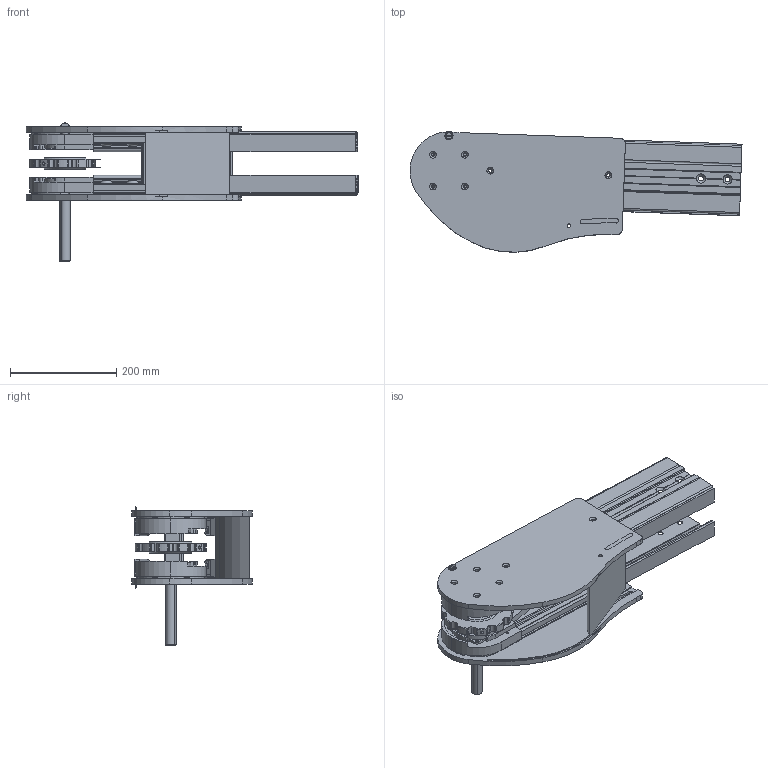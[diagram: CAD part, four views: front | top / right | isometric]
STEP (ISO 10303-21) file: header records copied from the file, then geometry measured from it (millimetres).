
FILE_DESCRIPTION (( 'STEP AP203' ), '1' );
FILE_NAME ('R3M-D20.STEP', '2009-01-13T08:21:03', ( 'faber' ), ( '' ), 'SwSTEP 2.0', 'SolidWorks 2008', '' );
FILE_SCHEMA (( 'CONFIG_CONTROL_DESIGN' ));
Length unit declared in the file: millimetre
Products named in the file (1): R3M-D20
Bounding box: 626.26 x 227.35 x 260.47 mm (x, y, z)
Surface area: 996691.4 mm2 (no closed solid volume)
Topology: 0 solids, 32 shells, 690 faces, 2582 edges, 1825 vertices
Faces by surface type: cylinder 314, plane 263, cone 64, sphere 24, torus 23, bspline 2
Entity records: 29064 total; most frequent: CARTESIAN_POINT 7682, DIRECTION 4553, ORIENTED_EDGE 4115, EDGE_CURVE 2534, VERTEX_POINT 1801, AXIS2_PLACEMENT_3D 1680, LINE 1193, VECTOR 1193
